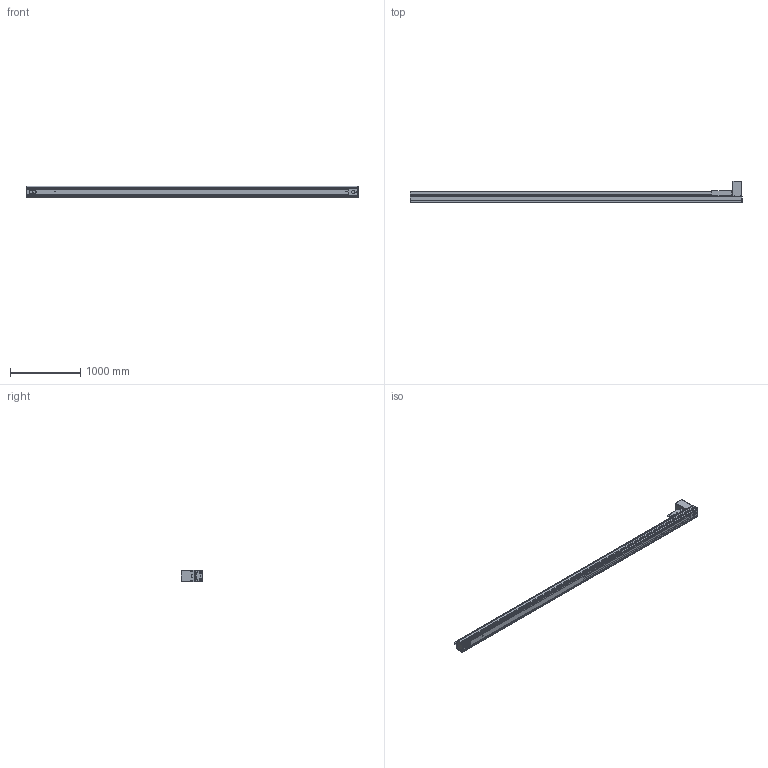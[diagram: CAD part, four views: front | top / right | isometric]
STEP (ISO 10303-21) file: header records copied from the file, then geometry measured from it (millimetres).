
FILE_DESCRIPTION((''),'2;1');
FILE_NAME('BE50G-BT-L19N-X15_IGS_PRT','2017-06-18T',(' '),(''),'PRO/ENGINEER BY PARAMETRIC TECHNOLOGY CORPORATION, 2015030','PRO/ENGINEER BY PARAMETRIC TECHNOLOGY CORPORATION, 2015030','');
FILE_SCHEMA(('CONFIG_CONTROL_DESIGN'));
Products named in the file (1): BE50G-BT-L19N-X15_IGS_PRT
Bounding box: 4720 x 309 x 160 mm (x, y, z)
Volume: 3104938.3 mm3; surface area: 9236378.8 mm2
Topology: 12 solids, 406 shells, 2402 faces, 7431 edges, 5101 vertices
Faces by surface type: cylinder 1447, plane 680, cone 232, sphere 23, torus 20
Entity records: 87515 total; most frequent: CARTESIAN_POINT 20320, DIRECTION 14061, ORIENTED_EDGE 13402, EDGE_CURVE 7357, AXIS2_PLACEMENT_3D 5395, VERTEX_POINT 5101, VECTOR 3271, LINE 3271
